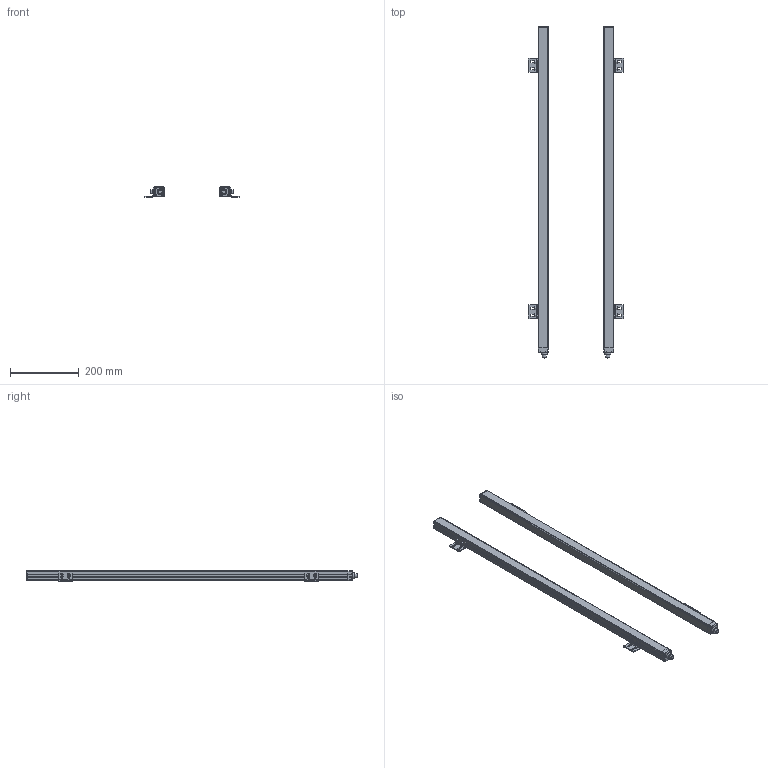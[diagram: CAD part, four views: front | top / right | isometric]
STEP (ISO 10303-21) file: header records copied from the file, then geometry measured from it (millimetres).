
FILE_DESCRIPTION( ( 'STEP AP203' ), '1' );
FILE_NAME( 'p:/temp/worker_7/3232_3460/app_59_02015061609393297360974192d056f_00_00_00_000/STEP/OY006S_2_03.stp', ' ', ( ' ' ), ( ' ' ), 'PSStep 15.0.47', 'PARTsolutions', ' ' );
FILE_SCHEMA( ( 'CONFIG_CONTROL_DESIGN' ) );
Length unit declared in the file: millimetre
Products named in the file (3): OY006S; _OY006S_part1; _OY001S_part2
Assembly tree (6 placements, depth 2):
  OY006S
    _OY006S_part1  x2
    _OY001S_part2  x4
Bounding box: 276 x 963 x 29.34 mm (x, y, z)
Volume: 1543971.4 mm3; surface area: 268205.4 mm2
Topology: 6 solids, 6 shells, 786 faces, 2112 edges, 1394 vertices
Faces by surface type: plane 444, cylinder 324, cone 10, torus 8
Full cylindrical faces by diameter (mm): 2.5 x8, 3 x8, 5 x32, 8.9 x8, 12 x2, 18 x2
Entity records: 10306 total; most frequent: CARTESIAN_POINT 1834, DIRECTION 1788, ORIENTED_EDGE 1690, EDGE_CURVE 845, AXIS2_PLACEMENT_3D 619, VERTEX_POINT 577, LINE 550, VECTOR 550
